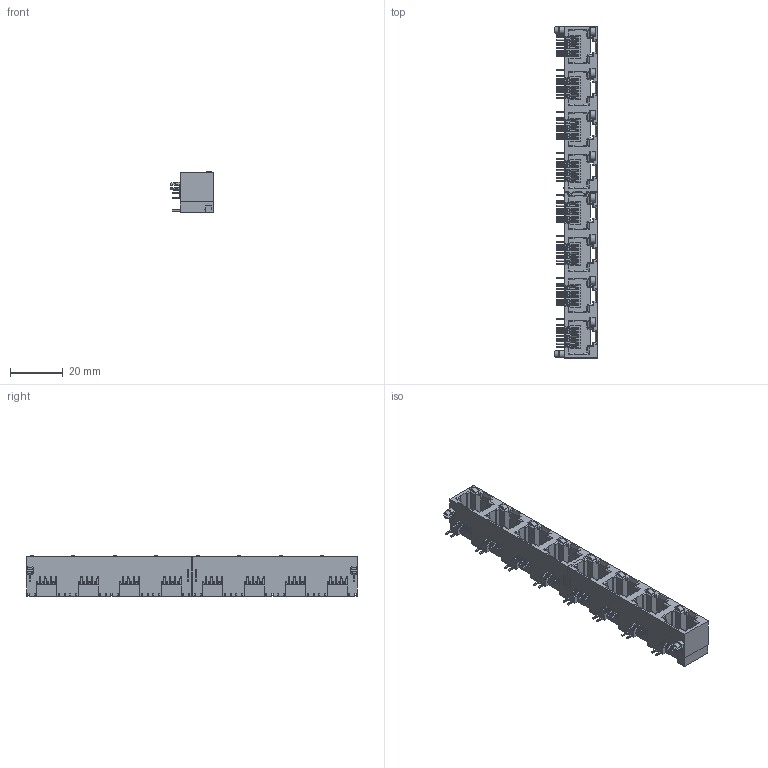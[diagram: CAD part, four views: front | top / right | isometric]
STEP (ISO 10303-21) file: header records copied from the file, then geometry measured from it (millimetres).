
FILE_DESCRIPTION((''),'2;1');
FILE_NAME('56-1X8_ASM','2025-12-02T09:46:47',('HQW'),(''),'CREO PARAMETRIC BY PTC INC, 2024153','CREO PARAMETRIC BY PTC INC, 2024153','');
FILE_SCHEMA(('CONFIG_CONTROL_DESIGN','GEOMETRIC_VALIDATION_PROPERTIES_MIM'));
Products named in the file (5): 56LED-1X4-8P-D-000; 56-PIN0; 56-LED0; 56-1X8_ASM
Assembly tree (18 placements, depth 2):
  56-1X8_ASM
    56LED-1X4-8P-D-000
    56LED-1X4-8P-D-000
    56-PIN0  x8
    56-LED0  x8
Bounding box: 16.3 x 125.95 x 15.55 mm (x, y, z)
Volume: 11658.2 mm3; surface area: 20506 mm2
Topology: 74 solids, 74 shells, 4008 faces, 10896 edges, 6936 vertices
Faces by surface type: plane 2714, cylinder 970, torus 320, cone 4
Entity records: 104508 total; most frequent: CARTESIAN_POINT 20572, ORIENTED_EDGE 18404, DIRECTION 16100, EDGE_CURVE 9202, VECTOR 7762, LINE 7762, VERTEX_POINT 5956, AXIS2_PLACEMENT_3D 4169
